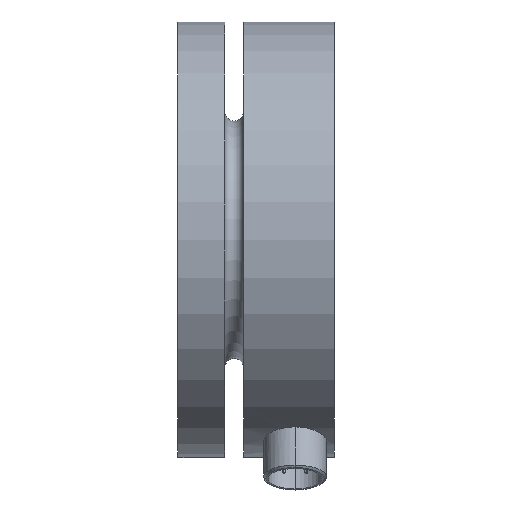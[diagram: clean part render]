
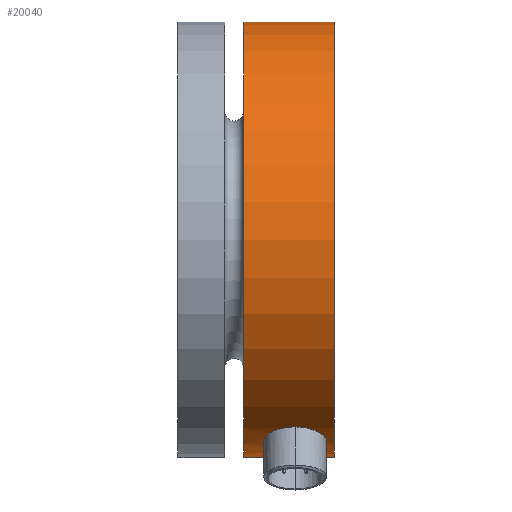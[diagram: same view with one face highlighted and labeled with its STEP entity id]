
A CAD part, front view. The second image highlights one B-rep face of the part: STEP entity #20040.
In plain terms, the highlighted cylindrical face has radius 34.85 mm (diameter 69.7 mm), a partial arc.
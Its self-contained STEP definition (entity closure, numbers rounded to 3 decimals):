
#200=DIRECTION('',(-1.,0.,0.));
#201=VECTOR('',#200,14.5);
#202=CARTESIAN_POINT('',(6.25,0.,-34.85));
#203=LINE('',#202,#201);
#204=DIRECTION('',(-1.,0.,0.));
#205=VECTOR('',#204,14.5);
#206=CARTESIAN_POINT('',(6.25,0.,34.85));
#207=LINE('',#206,#205);
#208=CARTESIAN_POINT('',(6.25,0.,0.));
#209=DIRECTION('',(-1.,0.,0.));
#210=DIRECTION('',(0.,0.,-1.));
#211=AXIS2_PLACEMENT_3D('',#208,#209,#210);
#213=CARTESIAN_POINT('',(0.,-8.579,-33.778));
#214=CARTESIAN_POINT('',(0.308,-8.579,
-33.778));
#215=CARTESIAN_POINT('',(0.922,-8.632,
-33.764));
#216=CARTESIAN_POINT('',(1.889,-8.907,-33.693));
#217=CARTESIAN_POINT('',(2.745,-9.345,-33.575));
#218=CARTESIAN_POINT('',(3.495,-9.923,-33.41));
#219=CARTESIAN_POINT('',(4.112,-10.615,-33.197));
#220=CARTESIAN_POINT('',(4.594,-11.415,-32.932));
#221=CARTESIAN_POINT('',(4.913,-12.319,-32.605));
#222=CARTESIAN_POINT('',(5.027,-13.221,-32.249));
#223=CARTESIAN_POINT('',(4.969,-14.067,-31.89));
#224=CARTESIAN_POINT('',(4.707,-14.972,-31.475));
#225=CARTESIAN_POINT('',(4.262,-15.769,-31.082));
#226=CARTESIAN_POINT('',(3.661,-16.461,-30.72));
#227=CARTESIAN_POINT('',(2.938,-17.018,-30.414));
#228=CARTESIAN_POINT('',(2.082,-17.458,-30.163));
#229=CARTESIAN_POINT('',(1.053,-17.755,-29.989));
#230=CARTESIAN_POINT('',(0.358,-17.818,
-29.951));
#231=CARTESIAN_POINT('',(0.,-17.818,-29.951));
#233=CARTESIAN_POINT('',(0.,-17.818,-29.951));
#234=CARTESIAN_POINT('',(-0.348,-17.818,
-29.951));
#235=CARTESIAN_POINT('',(-1.026,-17.758,
-29.986));
#236=CARTESIAN_POINT('',(-2.046,-17.472,
-30.155));
#237=CARTESIAN_POINT('',(-2.906,-17.037,
-30.403));
#238=CARTESIAN_POINT('',(-3.618,-16.499,
-30.7));
#239=CARTESIAN_POINT('',(-4.219,-15.828,
-31.052));
#240=CARTESIAN_POINT('',(-4.672,-15.05,
-31.437));
#241=CARTESIAN_POINT('',(-4.95,-14.166,
-31.846));
#242=CARTESIAN_POINT('',(-5.028,-13.316,
-32.21));
#243=CARTESIAN_POINT('',(-4.939,-12.444,
-32.557));
#244=CARTESIAN_POINT('',(-4.648,-11.533,
-32.891));
#245=CARTESIAN_POINT('',(-4.181,-10.709,
-33.167));
#246=CARTESIAN_POINT('',(-3.569,-9.993,
-33.389));
#247=CARTESIAN_POINT('',(-2.84,-9.406,
-33.558));
#248=CARTESIAN_POINT('',(-1.99,-8.949,
-33.682));
#249=CARTESIAN_POINT('',(-1.03,-8.65,
-33.76));
#250=CARTESIAN_POINT('',(-0.352,-8.579,
-33.778));
#251=CARTESIAN_POINT('',(0.,-8.579,-33.778));
#253=CARTESIAN_POINT('',(-8.25,0.,0.));
#254=DIRECTION('',(-1.,0.,0.));
#255=DIRECTION('',(0.,0.,-1.));
#256=AXIS2_PLACEMENT_3D('',#253,#254,#255);
#18799=CARTESIAN_POINT('',(6.25,0.,-34.85));
#18800=CARTESIAN_POINT('',(-8.25,0.,-34.85));
#18801=VERTEX_POINT('',#18799);
#18802=VERTEX_POINT('',#18800);
#18827=CARTESIAN_POINT('',(6.25,0.,34.85));
#18828=CARTESIAN_POINT('',(-8.25,0.,34.85));
#18829=VERTEX_POINT('',#18827);
#18830=VERTEX_POINT('',#18828);
#19883=VERTEX_POINT('',#213);
#19884=VERTEX_POINT('',#231);
#20022=CARTESIAN_POINT('',(-20.,0.,0.));
#20023=DIRECTION('',(1.,0.,0.));
#20024=DIRECTION('',(0.,0.,1.));
#20025=AXIS2_PLACEMENT_3D('',#20022,#20023,#20024);
#20026=CYLINDRICAL_SURFACE('',#20025,34.85);
#20027=ORIENTED_EDGE('',*,*,#20012,.T.);
#20029=ORIENTED_EDGE('',*,*,#20028,.T.);
#20030=ORIENTED_EDGE('',*,*,#20015,.F.);
#20031=ORIENTED_EDGE('',*,*,#19932,.F.);
#20032=EDGE_LOOP('',(#20027,#20029,#20030,#20031));
#20033=FACE_OUTER_BOUND('',#20032,.F.);
#20035=ORIENTED_EDGE('',*,*,#20034,.T.);
#20037=ORIENTED_EDGE('',*,*,#20036,.T.);
#20038=EDGE_LOOP('',(#20035,#20037));
#20039=FACE_BOUND('',#20038,.F.);
#20040=ADVANCED_FACE('',(#20033,#20039),#20026,.T.);
#212=CIRCLE('',#211,34.85);
#232=B_SPLINE_CURVE_WITH_KNOTS('',3,(#213,#214,#215,#216,#217,#218,#219,#220,
#221,#222,#223,#224,#225,#226,#227,#228,#229,#230,#231),.UNSPECIFIED.,.F.,.F.,
(4,1,1,1,1,1,1,1,1,1,1,1,1,1,1,1,4),(0.,0.063,0.125,0.188,0.25,
0.313,0.375,0.438,0.5,0.563,0.625,0.688,0.75,0.813,
0.875,0.938,1.),.UNSPECIFIED.);
#252=B_SPLINE_CURVE_WITH_KNOTS('',3,(#233,#234,#235,#236,#237,#238,#239,#240,
#241,#242,#243,#244,#245,#246,#247,#248,#249,#250,#251),.UNSPECIFIED.,.F.,.F.,
(4,1,1,1,1,1,1,1,1,1,1,1,1,1,1,1,4),(0.,0.063,0.125,0.188,0.25,
0.313,0.375,0.438,0.5,0.563,0.625,0.688,0.75,0.813,
0.875,0.938,1.),.UNSPECIFIED.);
#257=CIRCLE('',#256,34.85);
#19932=EDGE_CURVE('',#18801,#18829,#212,.T.);
#20012=EDGE_CURVE('',#18801,#18802,#203,.T.);
#20015=EDGE_CURVE('',#18829,#18830,#207,.T.);
#20028=EDGE_CURVE('',#18802,#18830,#257,.T.);
#20034=EDGE_CURVE('',#19883,#19884,#232,.T.);
#20036=EDGE_CURVE('',#19884,#19883,#252,.T.);
